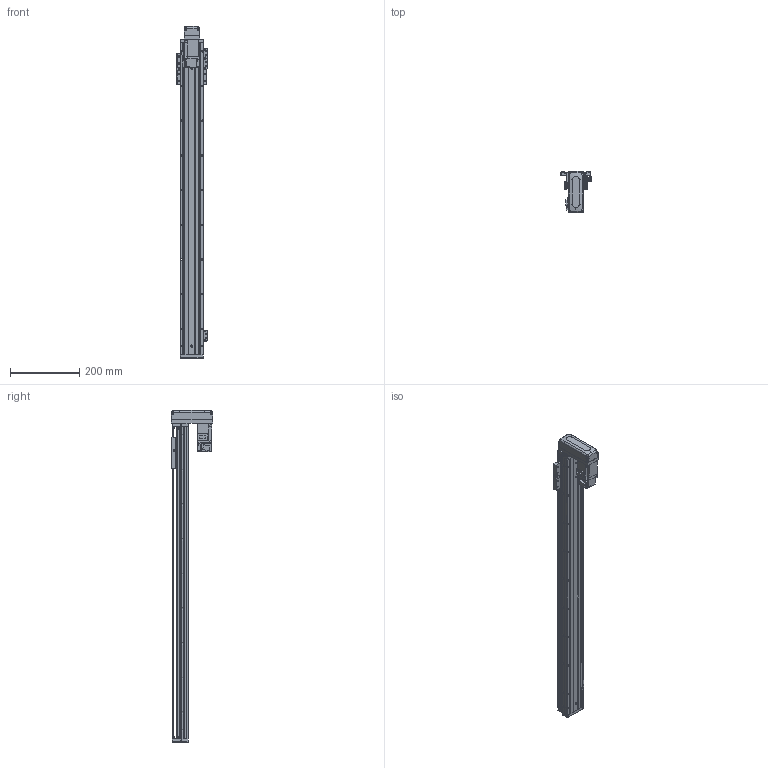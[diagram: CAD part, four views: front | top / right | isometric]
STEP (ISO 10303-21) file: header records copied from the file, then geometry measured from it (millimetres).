
FILE_DESCRIPTION (( 'STEP AP203' ), '1' );
FILE_NAME ('KTHAL60-750-BM-M10-C4L.step', '2022-03-19T08:42:14', ( '微软用户' ), ( '微软中国' ), 'SwSTEP 2.0', 'SolidWorks 2020', '' );
FILE_SCHEMA (( 'CONFIG_CONTROL_DESIGN' ));
Length unit declared in the file: millimetre
Products named in the file (18): KTHA60-001_900; CTHA60-017; CTHA60-015-2_CTHA60-015-2; KTHLA60-002; CTHA60-021; CTHA60-033; KTHA60-004; GBT 70.1-M4×16; GBT 70.1-M3×15; KTHA60-005; GBT77-2000M3-3; KTHAL60-750-BM-M10-C4L; GB¨uT 70.2-M3¡Á5_M3¡Á6; GBT 70.1-M3℅6; GBT 70.3-M3℅6; CTHA60-016; EE_SX911P_R; HG-KR13（三菱）
Assembly tree (51 placements, depth 2):
  KTHAL60-750-BM-M10-C4L
    KTHA60-001_900
    KTHLA60-002
    KTHA60-004
    KTHA60-005
    GB¨uT 70.2-M3¡Á5_M3¡Á6  x5
    GBT 70.3-M3℅6  x4
    EE_SX911P_R  x3
    CTHA60-017  x3
    CTHA60-021  x2
    GBT 70.1-M4×16  x10
    GBT77-2000M3-3  x6
    GBT 70.1-M3℅6  x6
    CTHA60-016
    HG-KR13（三菱）
    CTHA60-015-2_CTHA60-015-2
    CTHA60-033
    GBT 70.1-M3×15  x4
Bounding box: 87.82 x 120 x 957 mm (x, y, z)
Volume: 1943724 mm3; surface area: 480969.6 mm2
Topology: 54 solids, 54 shells, 2355 faces, 5611 edges, 3449 vertices
Faces by surface type: plane 1348, cylinder 577, cone 292, torus 98, bspline 26, sphere 14
Entity records: 41931 total; most frequent: CARTESIAN_POINT 7896, DIRECTION 6573, ORIENTED_EDGE 6366, EDGE_CURVE 3183, AXIS2_PLACEMENT_3D 2193, LINE 2187, VECTOR 2187, VERTEX_POINT 1998
